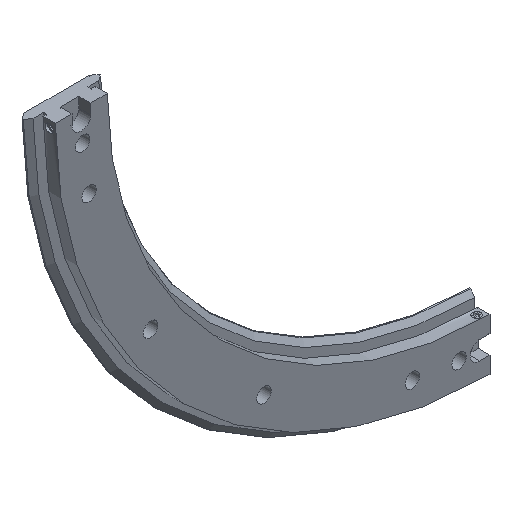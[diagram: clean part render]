
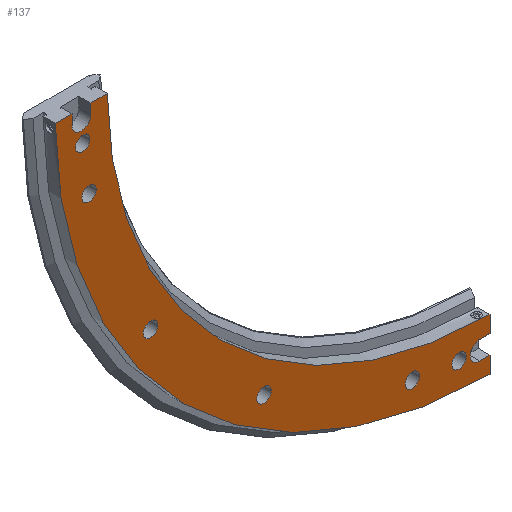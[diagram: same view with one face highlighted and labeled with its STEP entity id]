
A CAD part, isometric view. The second image highlights one B-rep face of the part: STEP entity #137.
In plain terms, the highlighted planar face has unit normal (0, -1, 0).
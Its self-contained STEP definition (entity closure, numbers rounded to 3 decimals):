
#137 = ADVANCED_FACE( '', ( #302, #303, #304, #305, #306, #307, #308 ), #309, .T. );
#302 = FACE_BOUND( '', #504, .T. );
#303 = FACE_BOUND( '', #505, .T. );
#304 = FACE_BOUND( '', #506, .T. );
#305 = FACE_BOUND( '', #507, .T. );
#306 = FACE_BOUND( '', #508, .T. );
#307 = FACE_BOUND( '', #509, .T. );
#308 = FACE_OUTER_BOUND( '', #510, .T. );
#309 = PLANE( '', #511 );
#504 = EDGE_LOOP( '', ( #1028 ) );
#505 = EDGE_LOOP( '', ( #1029 ) );
#506 = EDGE_LOOP( '', ( #1030 ) );
#507 = EDGE_LOOP( '', ( #1031 ) );
#508 = EDGE_LOOP( '', ( #1032 ) );
#509 = EDGE_LOOP( '', ( #1033 ) );
#510 = EDGE_LOOP( '', ( #1034, #1035, #1036, #1037, #1038, #1039, #1040, #1041, #1042, #1043, #1044, #1045 ) );
#511 = AXIS2_PLACEMENT_3D( '', #1046, #1047, #1048 );
#1028 = ORIENTED_EDGE( '', *, *, #1315, .F. );
#1029 = ORIENTED_EDGE( '', *, *, #1316, .F. );
#1030 = ORIENTED_EDGE( '', *, *, #1317, .F. );
#1031 = ORIENTED_EDGE( '', *, *, #1318, .F. );
#1032 = ORIENTED_EDGE( '', *, *, #1214, .F. );
#1033 = ORIENTED_EDGE( '', *, *, #1218, .F. );
#1034 = ORIENTED_EDGE( '', *, *, #1199, .T. );
#1035 = ORIENTED_EDGE( '', *, *, #1204, .T. );
#1036 = ORIENTED_EDGE( '', *, *, #1227, .T. );
#1037 = ORIENTED_EDGE( '', *, *, #1223, .T. );
#1038 = ORIENTED_EDGE( '', *, *, #1154, .T. );
#1039 = ORIENTED_EDGE( '', *, *, #1213, .T. );
#1040 = ORIENTED_EDGE( '', *, *, #1211, .T. );
#1041 = ORIENTED_EDGE( '', *, *, #1209, .T. );
#1042 = ORIENTED_EDGE( '', *, *, #1170, .T. );
#1043 = ORIENTED_EDGE( '', *, *, #1300, .F. );
#1044 = ORIENTED_EDGE( '', *, *, #1228, .T. );
#1045 = ORIENTED_EDGE( '', *, *, #1202, .T. );
#1046 = CARTESIAN_POINT( '', ( -374.25, 0., 0. ) );
#1047 = DIRECTION( '', ( 0., -1., 0. ) );
#1048 = DIRECTION( '', ( 0., 0., -1. ) );
#1154 = EDGE_CURVE( '', #1333, #1331, #1334, .T. );
#1170 = EDGE_CURVE( '', #1365, #1363, #1366, .T. );
#1199 = EDGE_CURVE( '', #1415, #1416, #1417, .T. );
#1202 = EDGE_CURVE( '', #1420, #1415, #1421, .T. );
#1204 = EDGE_CURVE( '', #1416, #1423, #1424, .T. );
#1209 = EDGE_CURVE( '', #1431, #1365, #1432, .T. );
#1211 = EDGE_CURVE( '', #1434, #1431, #1435, .T. );
#1213 = EDGE_CURVE( '', #1331, #1434, #1437, .T. );
#1214 = EDGE_CURVE( '', #1438, #1438, #1439, .T. );
#1218 = EDGE_CURVE( '', #1446, #1446, #1447, .T. );
#1223 = EDGE_CURVE( '', #1456, #1333, #1457, .T. );
#1227 = EDGE_CURVE( '', #1423, #1456, #1463, .T. );
#1228 = EDGE_CURVE( '', #1464, #1420, #1465, .T. );
#1300 = EDGE_CURVE( '', #1464, #1363, #1588, .T. );
#1315 = EDGE_CURVE( '', #1607, #1607, #1608, .T. );
#1316 = EDGE_CURVE( '', #1609, #1609, #1610, .T. );
#1317 = EDGE_CURVE( '', #1611, #1611, #1612, .T. );
#1318 = EDGE_CURVE( '', #1613, #1613, #1614, .T. );
#1331 = VERTEX_POINT( '', #1636 );
#1333 = VERTEX_POINT( '', #1639 );
#1334 = LINE( '', #1640, #1641 );
#1363 = VERTEX_POINT( '', #1708 );
#1365 = VERTEX_POINT( '', #1711 );
#1366 = LINE( '', #1712, #1713 );
#1415 = VERTEX_POINT( '', #1852 );
#1416 = VERTEX_POINT( '', #1853 );
#1417 = CIRCLE( '', #1854, 9. );
#1420 = VERTEX_POINT( '', #1859 );
#1421 = LINE( '', #1860, #1861 );
#1423 = VERTEX_POINT( '', #1864 );
#1424 = LINE( '', #1865, #1866 );
#1431 = VERTEX_POINT( '', #1876 );
#1432 = LINE( '', #1877, #1878 );
#1434 = VERTEX_POINT( '', #1881 );
#1435 = CIRCLE( '', #1882, 9. );
#1437 = LINE( '', #1885, #1886 );
#1438 = VERTEX_POINT( '', #1887 );
#1439 = CIRCLE( '', #1888, 7. );
#1446 = VERTEX_POINT( '', #1895 );
#1447 = CIRCLE( '', #1896, 7. );
#1456 = VERTEX_POINT( '', #1970 );
#1457 = CIRCLE( '', #1971, 424.75 );
#1463 = LINE( '', #2043, #2044 );
#1464 = VERTEX_POINT( '', #2045 );
#1465 = LINE( '', #2046, #2047 );
#1588 = CIRCLE( '', #2323, 374.25 );
#1607 = VERTEX_POINT( '', #2342 );
#1608 = CIRCLE( '', #2343, 7. );
#1609 = VERTEX_POINT( '', #2344 );
#1610 = CIRCLE( '', #2345, 7. );
#1611 = VERTEX_POINT( '', #2346 );
#1612 = CIRCLE( '', #2347, 7. );
#1613 = VERTEX_POINT( '', #2348 );
#1614 = CIRCLE( '', #2349, 7. );
#1636 = CARTESIAN_POINT( '', ( -2.5, 0., -408.5 ) );
#1639 = CARTESIAN_POINT( '', ( -2.5, 0., -424.743 ) );
#1640 = CARTESIAN_POINT( '', ( -2.5, 0., -437.87 ) );
#1641 = VECTOR( '', #2370, 1000. );
#1708 = CARTESIAN_POINT( '', ( -2.5, 0., -374.242 ) );
#1711 = CARTESIAN_POINT( '', ( -2.5, 0., -390.5 ) );
#1712 = CARTESIAN_POINT( '', ( -2.5, 0., -437.87 ) );
#1713 = VECTOR( '', #2380, 1000. );
#1852 = CARTESIAN_POINT( '', ( -390.5, 0., -12.5 ) );
#1853 = CARTESIAN_POINT( '', ( -408.5, 0., -12.5 ) );
#1854 = AXIS2_PLACEMENT_3D( '', #2415, #2416, #2417 );
#1859 = CARTESIAN_POINT( '', ( -390.5, 0., -2.5 ) );
#1860 = CARTESIAN_POINT( '', ( -390.5, 0., 0. ) );
#1861 = VECTOR( '', #2420, 1000. );
#1864 = CARTESIAN_POINT( '', ( -408.5, 0., -2.5 ) );
#1865 = CARTESIAN_POINT( '', ( -408.5, 0., -12.5 ) );
#1866 = VECTOR( '', #2422, 1000. );
#1876 = CARTESIAN_POINT( '', ( -12.5, 0., -390.5 ) );
#1877 = CARTESIAN_POINT( '', ( -12.5, 0., -390.5 ) );
#1878 = VECTOR( '', #2429, 1000. );
#1881 = CARTESIAN_POINT( '', ( -12.5, 0., -408.5 ) );
#1882 = AXIS2_PLACEMENT_3D( '', #2431, #2432, #2433 );
#1885 = CARTESIAN_POINT( '', ( 0., 0., -408.5 ) );
#1886 = VECTOR( '', #2435, 1000. );
#1887 = CARTESIAN_POINT( '', ( -391.824, 0., -84.939 ) );
#1888 = AXIS2_PLACEMENT_3D( '', #2436, #2437, #2438 );
#1895 = CARTESIAN_POINT( '', ( -77.939, 0., -398.824 ) );
#1896 = AXIS2_PLACEMENT_3D( '', #2448, #2449, #2450 );
#1970 = CARTESIAN_POINT( '', ( -424.743, 0., -2.5 ) );
#1971 = AXIS2_PLACEMENT_3D( '', #2460, #2461, #2462 );
#2043 = CARTESIAN_POINT( '', ( -2.5, 0., -2.5 ) );
#2044 = VECTOR( '', #2467, 1000. );
#2045 = CARTESIAN_POINT( '', ( -374.242, 0., -2.5 ) );
#2046 = CARTESIAN_POINT( '', ( -2.5, 0., -2.5 ) );
#2047 = VECTOR( '', #2468, 1000. );
#2323 = AXIS2_PLACEMENT_3D( '', #2542, #2543, #2544 );
#2342 = CARTESIAN_POINT( '', ( -398.176, 0., -39.498 ) );
#2343 = AXIS2_PLACEMENT_3D( '', #2587, #2588, #2589 );
#2344 = CARTESIAN_POINT( '', ( -32.498, 0., -405.176 ) );
#2345 = AXIS2_PLACEMENT_3D( '', #2590, #2591, #2592 );
#2346 = CARTESIAN_POINT( '', ( -332.172, 0., -228.95 ) );
#2347 = AXIS2_PLACEMENT_3D( '', #2593, #2594, #2595 );
#2348 = CARTESIAN_POINT( '', ( -221.95, 0., -339.172 ) );
#2349 = AXIS2_PLACEMENT_3D( '', #2596, #2597, #2598 );
#2370 = DIRECTION( '', ( 0., 0., 1. ) );
#2380 = DIRECTION( '', ( 0., 0., 1. ) );
#2415 = CARTESIAN_POINT( '', ( -399.5, 0., -12.5 ) );
#2416 = DIRECTION( '', ( 0., 1., 0. ) );
#2417 = DIRECTION( '', ( 1., 0., 0. ) );
#2420 = DIRECTION( '', ( 0., 0., -1. ) );
#2422 = DIRECTION( '', ( 0., 0., 1. ) );
#2429 = DIRECTION( '', ( 1., 0., 0. ) );
#2431 = CARTESIAN_POINT( '', ( -12.5, 0., -399.5 ) );
#2432 = DIRECTION( '', ( 0., 1., 0. ) );
#2433 = DIRECTION( '', ( 1., 0., 0. ) );
#2435 = DIRECTION( '', ( -1., 0., 0. ) );
#2436 = CARTESIAN_POINT( '', ( -391.824, 0., -77.939 ) );
#2437 = DIRECTION( '', ( 0., -1., 0. ) );
#2438 = DIRECTION( '', ( 0., 0., -1. ) );
#2448 = CARTESIAN_POINT( '', ( -77.939, 0., -391.824 ) );
#2449 = DIRECTION( '', ( 0., -1., 0. ) );
#2450 = DIRECTION( '', ( 0., 0., -1. ) );
#2460 = CARTESIAN_POINT( '', ( 0., 0., 0. ) );
#2461 = DIRECTION( '', ( 0., -1., 0. ) );
#2462 = DIRECTION( '', ( 0., 0., -1. ) );
#2467 = DIRECTION( '', ( -1., 0., 0. ) );
#2468 = DIRECTION( '', ( -1., 0., 0. ) );
#2542 = CARTESIAN_POINT( '', ( 0., 0., 0. ) );
#2543 = DIRECTION( '', ( 0., -1., 0. ) );
#2544 = DIRECTION( '', ( 0., 0., -1. ) );
#2587 = CARTESIAN_POINT( '', ( -398.176, 0., -32.498 ) );
#2588 = DIRECTION( '', ( 0., -1., 0. ) );
#2589 = DIRECTION( '', ( 0., 0., -1. ) );
#2590 = CARTESIAN_POINT( '', ( -32.498, 0., -398.176 ) );
#2591 = DIRECTION( '', ( 0., -1., 0. ) );
#2592 = DIRECTION( '', ( 0., 0., -1. ) );
#2593 = CARTESIAN_POINT( '', ( -332.172, 0., -221.95 ) );
#2594 = DIRECTION( '', ( 0., -1., 0. ) );
#2595 = DIRECTION( '', ( 0., 0., -1. ) );
#2596 = CARTESIAN_POINT( '', ( -221.95, 0., -332.172 ) );
#2597 = DIRECTION( '', ( 0., -1., 0. ) );
#2598 = DIRECTION( '', ( 0., 0., -1. ) );
